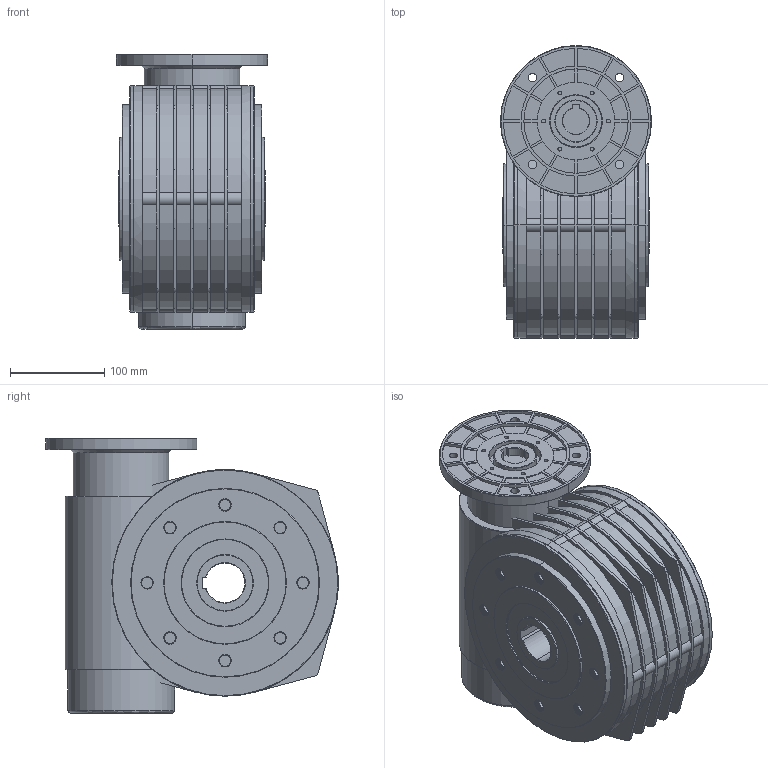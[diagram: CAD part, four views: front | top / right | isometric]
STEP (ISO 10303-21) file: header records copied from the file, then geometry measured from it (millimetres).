
FILE_DESCRIPTION (( 'STEP AP214' ), '1' );
FILE_NAME ('MVF110P 100B14.step', '2020-06-26T08:46:17', ( '' ), ( '' ), 'SwSTEP 2.0', 'SolidWorks 2016', '' );
FILE_SCHEMA (( 'AUTOMOTIVE_DESIGN' ));
Length unit declared in the file: millimetre
Products named in the file (1): MVF110P 100B14
Bounding box: 160 x 310 x 291.5 mm (x, y, z)
Volume: 9679938.1 mm3; surface area: 682419.9 mm2
Topology: 13 solids, 13 shells, 1404 faces, 3207 edges, 1866 vertices
Faces by surface type: cone 529, cylinder 467, plane 343, bspline 65
Entity records: 54988 total; most frequent: CARTESIAN_POINT 7351, DIRECTION 7098, ORIENTED_EDGE 6414, EDGE_CURVE 3207, AXIS2_PLACEMENT_3D 2685, VERTEX_POINT 1866, LINE 1728, VECTOR 1728
